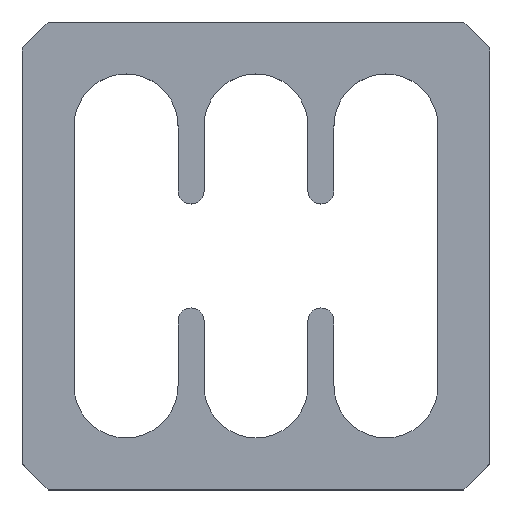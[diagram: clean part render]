
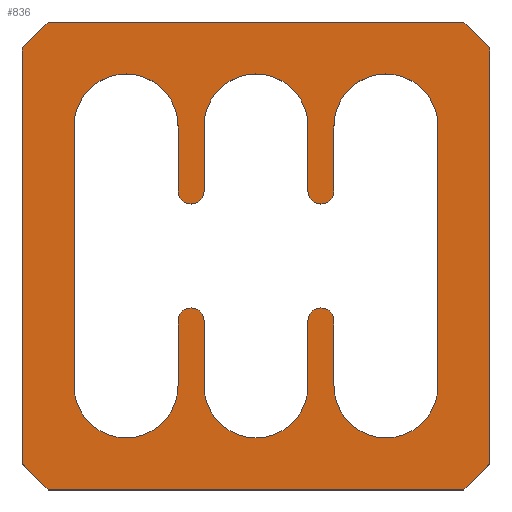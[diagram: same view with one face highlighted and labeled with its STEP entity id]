
A CAD part, top view. The second image highlights one B-rep face of the part: STEP entity #836.
In plain terms, the highlighted planar face has unit normal (0, 0, 1).
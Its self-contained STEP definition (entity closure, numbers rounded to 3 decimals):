
#41=CIRCLE('',#899,2.);
#42=CIRCLE('',#901,2.);
#43=CIRCLE('',#903,2.);
#44=CIRCLE('',#905,2.);
#45=CIRCLE('',#908,0.5);
#46=CIRCLE('',#910,0.5);
#47=CIRCLE('',#912,0.5);
#48=CIRCLE('',#914,0.5);
#49=CIRCLE('',#920,2.);
#50=CIRCLE('',#921,2.);
#53=FACE_BOUND('',#130,.T.);
#82=FACE_OUTER_BOUND('',#129,.T.);
#129=EDGE_LOOP('',(#671,#672,#673,#674,#675,#676,#677,#678));
#130=EDGE_LOOP('',(#679,#680,#681,#682,#683,#684,#685,#686,#687,#688,#689,
#690,#691,#692,#693,#694,#695,#696,#697,#698));
#211=LINE('',#1357,#305);
#213=LINE('',#1360,#307);
#214=LINE('',#1362,#308);
#215=LINE('',#1364,#309);
#216=LINE('',#1368,#310);
#217=LINE('',#1370,#311);
#218=LINE('',#1372,#312);
#219=LINE('',#1374,#313);
#220=LINE('',#1376,#314);
#221=LINE('',#1378,#315);
#222=LINE('',#1380,#316);
#223=LINE('',#1381,#317);
#224=LINE('',#1382,#318);
#225=LINE('',#1383,#319);
#226=LINE('',#1385,#320);
#227=LINE('',#1388,#321);
#228=LINE('',#1389,#322);
#229=LINE('',#1391,#323);
#305=VECTOR('',#1102,10.);
#307=VECTOR('',#1106,10.);
#308=VECTOR('',#1109,10.);
#309=VECTOR('',#1112,10.);
#310=VECTOR('',#1115,10.);
#311=VECTOR('',#1116,10.);
#312=VECTOR('',#1117,10.);
#313=VECTOR('',#1118,10.);
#314=VECTOR('',#1119,10.);
#315=VECTOR('',#1120,10.);
#316=VECTOR('',#1121,10.);
#317=VECTOR('',#1122,10.);
#318=VECTOR('',#1123,10.);
#319=VECTOR('',#1124,10.);
#320=VECTOR('',#1125,10.);
#321=VECTOR('',#1128,10.);
#322=VECTOR('',#1129,10.);
#323=VECTOR('',#1130,10.);
#377=VERTEX_POINT('',#1291);
#378=VERTEX_POINT('',#1293);
#379=VERTEX_POINT('',#1297);
#380=VERTEX_POINT('',#1299);
#381=VERTEX_POINT('',#1303);
#382=VERTEX_POINT('',#1305);
#383=VERTEX_POINT('',#1309);
#384=VERTEX_POINT('',#1311);
#393=VERTEX_POINT('',#1332);
#394=VERTEX_POINT('',#1334);
#395=VERTEX_POINT('',#1338);
#396=VERTEX_POINT('',#1340);
#397=VERTEX_POINT('',#1344);
#398=VERTEX_POINT('',#1346);
#399=VERTEX_POINT('',#1350);
#400=VERTEX_POINT('',#1352);
#401=VERTEX_POINT('',#1356);
#402=VERTEX_POINT('',#1366);
#403=VERTEX_POINT('',#1367);
#404=VERTEX_POINT('',#1369);
#405=VERTEX_POINT('',#1371);
#406=VERTEX_POINT('',#1373);
#407=VERTEX_POINT('',#1375);
#408=VERTEX_POINT('',#1377);
#409=VERTEX_POINT('',#1379);
#410=VERTEX_POINT('',#1384);
#411=VERTEX_POINT('',#1386);
#412=VERTEX_POINT('',#1390);
#470=EDGE_CURVE('',#378,#377,#41,.T.);
#473=EDGE_CURVE('',#380,#379,#42,.T.);
#476=EDGE_CURVE('',#382,#381,#43,.T.);
#479=EDGE_CURVE('',#384,#383,#44,.T.);
#490=EDGE_CURVE('',#394,#393,#45,.T.);
#493=EDGE_CURVE('',#396,#395,#46,.T.);
#496=EDGE_CURVE('',#398,#397,#47,.T.);
#499=EDGE_CURVE('',#400,#399,#48,.T.);
#501=EDGE_CURVE('',#401,#394,#211,.T.);
#503=EDGE_CURVE('',#379,#396,#213,.T.);
#504=EDGE_CURVE('',#397,#382,#214,.T.);
#505=EDGE_CURVE('',#399,#384,#215,.T.);
#506=EDGE_CURVE('',#402,#403,#216,.T.);
#507=EDGE_CURVE('',#403,#404,#217,.T.);
#508=EDGE_CURVE('',#404,#405,#218,.T.);
#509=EDGE_CURVE('',#405,#406,#219,.T.);
#510=EDGE_CURVE('',#406,#407,#220,.T.);
#511=EDGE_CURVE('',#407,#408,#221,.T.);
#512=EDGE_CURVE('',#408,#409,#222,.T.);
#513=EDGE_CURVE('',#409,#402,#223,.T.);
#514=EDGE_CURVE('',#393,#380,#224,.T.);
#515=EDGE_CURVE('',#395,#378,#225,.T.);
#516=EDGE_CURVE('',#377,#410,#226,.T.);
#517=EDGE_CURVE('',#410,#411,#49,.T.);
#518=EDGE_CURVE('',#411,#400,#227,.T.);
#519=EDGE_CURVE('',#383,#398,#228,.T.);
#520=EDGE_CURVE('',#381,#412,#229,.T.);
#521=EDGE_CURVE('',#412,#401,#50,.T.);
#671=ORIENTED_EDGE('',*,*,#506,.T.);
#672=ORIENTED_EDGE('',*,*,#507,.T.);
#673=ORIENTED_EDGE('',*,*,#508,.T.);
#674=ORIENTED_EDGE('',*,*,#509,.T.);
#675=ORIENTED_EDGE('',*,*,#510,.T.);
#676=ORIENTED_EDGE('',*,*,#511,.T.);
#677=ORIENTED_EDGE('',*,*,#512,.T.);
#678=ORIENTED_EDGE('',*,*,#513,.T.);
#679=ORIENTED_EDGE('',*,*,#490,.T.);
#680=ORIENTED_EDGE('',*,*,#514,.T.);
#681=ORIENTED_EDGE('',*,*,#473,.T.);
#682=ORIENTED_EDGE('',*,*,#503,.T.);
#683=ORIENTED_EDGE('',*,*,#493,.T.);
#684=ORIENTED_EDGE('',*,*,#515,.T.);
#685=ORIENTED_EDGE('',*,*,#470,.T.);
#686=ORIENTED_EDGE('',*,*,#516,.T.);
#687=ORIENTED_EDGE('',*,*,#517,.T.);
#688=ORIENTED_EDGE('',*,*,#518,.T.);
#689=ORIENTED_EDGE('',*,*,#499,.T.);
#690=ORIENTED_EDGE('',*,*,#505,.T.);
#691=ORIENTED_EDGE('',*,*,#479,.T.);
#692=ORIENTED_EDGE('',*,*,#519,.T.);
#693=ORIENTED_EDGE('',*,*,#496,.T.);
#694=ORIENTED_EDGE('',*,*,#504,.T.);
#695=ORIENTED_EDGE('',*,*,#476,.T.);
#696=ORIENTED_EDGE('',*,*,#520,.T.);
#697=ORIENTED_EDGE('',*,*,#521,.T.);
#698=ORIENTED_EDGE('',*,*,#501,.T.);
#793=PLANE('',#919);
#836=ADVANCED_FACE('',(#82,#53),#793,.T.);
#899=AXIS2_PLACEMENT_3D('',#1294,#1045,#1046);
#901=AXIS2_PLACEMENT_3D('',#1300,#1051,#1052);
#903=AXIS2_PLACEMENT_3D('',#1306,#1057,#1058);
#905=AXIS2_PLACEMENT_3D('',#1312,#1063,#1064);
#908=AXIS2_PLACEMENT_3D('',#1335,#1079,#1080);
#910=AXIS2_PLACEMENT_3D('',#1341,#1085,#1086);
#912=AXIS2_PLACEMENT_3D('',#1347,#1091,#1092);
#914=AXIS2_PLACEMENT_3D('',#1353,#1097,#1098);
#919=AXIS2_PLACEMENT_3D('',#1365,#1113,#1114);
#920=AXIS2_PLACEMENT_3D('',#1387,#1126,#1127);
#921=AXIS2_PLACEMENT_3D('',#1392,#1131,#1132);
#1045=DIRECTION('center_axis',(0.,0.,-1.));
#1046=DIRECTION('ref_axis',(1.,0.,0.));
#1051=DIRECTION('center_axis',(0.,0.,-1.));
#1052=DIRECTION('ref_axis',(1.,0.,0.));
#1057=DIRECTION('center_axis',(0.,0.,-1.));
#1058=DIRECTION('ref_axis',(-1.,0.,0.));
#1063=DIRECTION('center_axis',(0.,0.,-1.));
#1064=DIRECTION('ref_axis',(-1.,0.,0.));
#1079=DIRECTION('center_axis',(0.,0.,1.));
#1080=DIRECTION('ref_axis',(1.,0.,0.));
#1085=DIRECTION('center_axis',(0.,0.,1.));
#1086=DIRECTION('ref_axis',(1.,0.,0.));
#1091=DIRECTION('center_axis',(0.,0.,1.));
#1092=DIRECTION('ref_axis',(-1.,0.,0.));
#1097=DIRECTION('center_axis',(0.,0.,1.));
#1098=DIRECTION('ref_axis',(-1.,0.,0.));
#1102=DIRECTION('',(0.,-1.,0.));
#1106=DIRECTION('',(0.,-1.,0.));
#1109=DIRECTION('',(0.,-1.,0.));
#1112=DIRECTION('',(0.,-1.,0.));
#1113=DIRECTION('center_axis',(0.,0.,1.));
#1114=DIRECTION('ref_axis',(-1.,0.,0.));
#1115=DIRECTION('',(1.,0.,0.));
#1116=DIRECTION('',(0.707,0.707,0.));
#1117=DIRECTION('',(0.,1.,0.));
#1118=DIRECTION('',(-0.707,0.707,0.));
#1119=DIRECTION('',(-1.,0.,0.));
#1120=DIRECTION('',(-0.707,-0.707,0.));
#1121=DIRECTION('',(0.,-1.,0.));
#1122=DIRECTION('',(0.707,-0.707,0.));
#1123=DIRECTION('',(0.,1.,0.));
#1124=DIRECTION('',(0.,1.,0.));
#1125=DIRECTION('',(0.,-1.,0.));
#1126=DIRECTION('center_axis',(0.,0.,-1.));
#1127=DIRECTION('ref_axis',(-1.,0.,0.));
#1128=DIRECTION('',(0.,1.,0.));
#1129=DIRECTION('',(0.,1.,0.));
#1130=DIRECTION('',(0.,1.,0.));
#1131=DIRECTION('center_axis',(0.,0.,-1.));
#1132=DIRECTION('ref_axis',(1.,0.,0.));
#1291=CARTESIAN_POINT('',(7.,5.,18.5));
#1293=CARTESIAN_POINT('',(3.,5.,18.5));
#1294=CARTESIAN_POINT('Origin',(5.,5.,18.5));
#1297=CARTESIAN_POINT('',(2.,5.,18.5));
#1299=CARTESIAN_POINT('',(-2.,5.,18.5));
#1300=CARTESIAN_POINT('Origin',(0.,5.,18.5));
#1303=CARTESIAN_POINT('',(-7.,-5.,18.5));
#1305=CARTESIAN_POINT('',(-3.,-5.,18.5));
#1306=CARTESIAN_POINT('Origin',(-5.,-5.,18.5));
#1309=CARTESIAN_POINT('',(-2.,-5.,18.5));
#1311=CARTESIAN_POINT('',(2.,-5.,18.5));
#1312=CARTESIAN_POINT('Origin',(0.,-5.,18.5));
#1332=CARTESIAN_POINT('',(-2.,2.5,18.5));
#1334=CARTESIAN_POINT('',(-3.,2.5,18.5));
#1335=CARTESIAN_POINT('Origin',(-2.5,2.5,18.5));
#1338=CARTESIAN_POINT('',(3.,2.5,18.5));
#1340=CARTESIAN_POINT('',(2.,2.5,18.5));
#1341=CARTESIAN_POINT('Origin',(2.5,2.5,18.5));
#1344=CARTESIAN_POINT('',(-3.,-2.5,18.5));
#1346=CARTESIAN_POINT('',(-2.,-2.5,18.5));
#1347=CARTESIAN_POINT('Origin',(-2.5,-2.5,18.5));
#1350=CARTESIAN_POINT('',(2.,-2.5,18.5));
#1352=CARTESIAN_POINT('',(3.,-2.5,18.5));
#1353=CARTESIAN_POINT('Origin',(2.5,-2.5,18.5));
#1356=CARTESIAN_POINT('',(-3.,5.,18.5));
#1357=CARTESIAN_POINT('',(-3.,-5.,18.5));
#1360=CARTESIAN_POINT('',(2.,-5.,18.5));
#1362=CARTESIAN_POINT('',(-3.,-5.,18.5));
#1364=CARTESIAN_POINT('',(2.,-5.,18.5));
#1365=CARTESIAN_POINT('Origin',(0.,0.,18.5));
#1366=CARTESIAN_POINT('',(-8.,-9.,18.5));
#1367=CARTESIAN_POINT('',(8.,-9.,18.5));
#1368=CARTESIAN_POINT('',(-8.,-9.,18.5));
#1369=CARTESIAN_POINT('',(9.,-8.,18.5));
#1370=CARTESIAN_POINT('',(8.,-9.,18.5));
#1371=CARTESIAN_POINT('',(9.,8.,18.5));
#1372=CARTESIAN_POINT('',(9.,-8.,18.5));
#1373=CARTESIAN_POINT('',(8.,9.,18.5));
#1374=CARTESIAN_POINT('',(9.,8.,18.5));
#1375=CARTESIAN_POINT('',(-8.,9.,18.5));
#1376=CARTESIAN_POINT('',(8.,9.,18.5));
#1377=CARTESIAN_POINT('',(-9.,8.,18.5));
#1378=CARTESIAN_POINT('',(-8.,9.,18.5));
#1379=CARTESIAN_POINT('',(-9.,-8.,18.5));
#1380=CARTESIAN_POINT('',(-9.,8.,18.5));
#1381=CARTESIAN_POINT('',(-8.,-9.,18.5));
#1382=CARTESIAN_POINT('',(-2.,5.,18.5));
#1383=CARTESIAN_POINT('',(3.,5.,18.5));
#1384=CARTESIAN_POINT('',(7.,-5.,18.5));
#1385=CARTESIAN_POINT('',(7.,-5.,18.5));
#1386=CARTESIAN_POINT('',(3.,-5.,18.5));
#1387=CARTESIAN_POINT('Origin',(5.,-5.,18.5));
#1388=CARTESIAN_POINT('',(3.,5.,18.5));
#1389=CARTESIAN_POINT('',(-2.,5.,18.5));
#1390=CARTESIAN_POINT('',(-7.,5.,18.5));
#1391=CARTESIAN_POINT('',(-7.,5.,18.5));
#1392=CARTESIAN_POINT('Origin',(-5.,5.,18.5));
